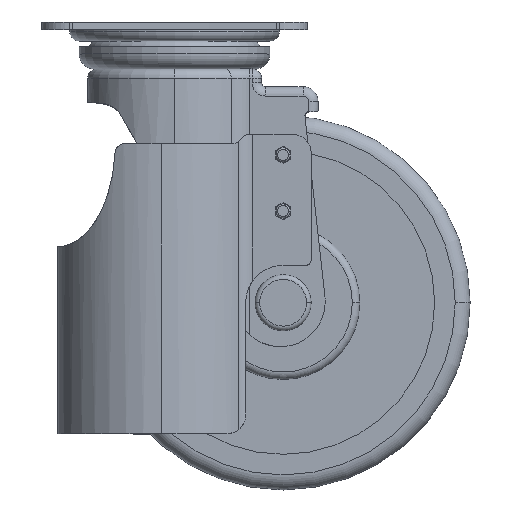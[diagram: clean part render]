
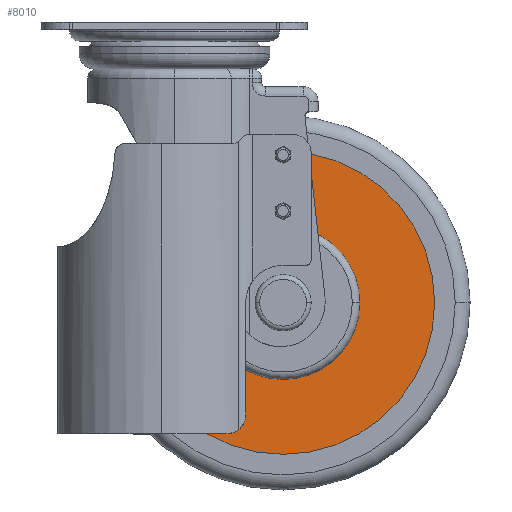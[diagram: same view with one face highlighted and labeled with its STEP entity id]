
A CAD part, top view. The second image highlights one B-rep face of the part: STEP entity #8010.
In plain terms, the highlighted planar face has unit normal (0, 0, 1).
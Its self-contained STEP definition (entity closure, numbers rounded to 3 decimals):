
#297 = EDGE_CURVE ( 'NONE', #6641, #8076, #7648, .T. ) ;
#524 = EDGE_CURVE ( 'NONE', #7879, #5879, #1270, .T. ) ;
#774 = AXIS2_PLACEMENT_3D ( 'NONE', #3671, #3798, #3778 ) ;
#1201 = EDGE_CURVE ( 'NONE', #8076, #6641, #1262, .T. ) ;
#1262 = CIRCLE ( 'NONE', #7640, 41. ) ;
#1270 = CIRCLE ( 'NONE', #2001, 81. ) ;
#1434 = AXIS2_PLACEMENT_3D ( 'NONE', #5856, #8114, #5889 ) ;
#2001 = AXIS2_PLACEMENT_3D ( 'NONE', #5489, #2768, #2755 ) ;
#2278 = CARTESIAN_POINT ( 'NONE',  ( 81., 100., 21.5 ) ) ;
#2341 = CARTESIAN_POINT ( 'NONE',  ( -41., 100., 21.5 ) ) ;
#2546 = DIRECTION ( 'NONE',  ( 1., 0., 0. ) ) ;
#2755 = DIRECTION ( 'NONE',  ( 1., 0., 0. ) ) ;
#2768 = DIRECTION ( 'NONE',  ( 0., 0., 1. ) ) ;
#3365 = FACE_BOUND ( 'NONE', #4177, .T. ) ;
#3389 = ORIENTED_EDGE ( 'NONE', *, *, #297, .F. ) ;
#3671 = CARTESIAN_POINT ( 'NONE',  ( 0., 100., 21.5 ) ) ;
#3778 = DIRECTION ( 'NONE',  ( 1., 0., 0. ) ) ;
#3798 = DIRECTION ( 'NONE',  ( 0., 0., 1. ) ) ;
#4177 = EDGE_LOOP ( 'NONE', ( #3389, #7259 ) ) ;
#5116 = EDGE_CURVE ( 'NONE', #5879, #7879, #6474, .T. ) ;
#5180 = PLANE ( 'NONE',  #1434 ) ;
#5182 = DIRECTION ( 'NONE',  ( 0., 0., 1. ) ) ;
#5183 = DIRECTION ( 'NONE',  ( 1., 0., 0. ) ) ;
#5205 = CARTESIAN_POINT ( 'NONE',  ( 0., 100., 21.5 ) ) ;
#5489 = CARTESIAN_POINT ( 'NONE',  ( 0., 100., 21.5 ) ) ;
#5527 = DIRECTION ( 'NONE',  ( 0., 0., 1. ) ) ;
#5564 = CARTESIAN_POINT ( 'NONE',  ( 0., 100., 21.5 ) ) ;
#5856 = CARTESIAN_POINT ( 'NONE',  ( 0., 100., 21.5 ) ) ;
#5879 = VERTEX_POINT ( 'NONE', #8870 ) ;
#5889 = DIRECTION ( 'NONE',  ( 1., 0., 0. ) ) ;
#6016 = CARTESIAN_POINT ( 'NONE',  ( 41., 100., 21.5 ) ) ;
#6474 = CIRCLE ( 'NONE', #8790, 81. ) ;
#6637 = FACE_OUTER_BOUND ( 'NONE', #7657, .T. ) ;
#6641 = VERTEX_POINT ( 'NONE', #2341 ) ;
#6835 = ORIENTED_EDGE ( 'NONE', *, *, #524, .T. ) ;
#7259 = ORIENTED_EDGE ( 'NONE', *, *, #1201, .F. ) ;
#7640 = AXIS2_PLACEMENT_3D ( 'NONE', #5205, #5182, #2546 ) ;
#7648 = CIRCLE ( 'NONE', #774, 41. ) ;
#7657 = EDGE_LOOP ( 'NONE', ( #6835, #8189 ) ) ;
#7879 = VERTEX_POINT ( 'NONE', #2278 ) ;
#8010 = ADVANCED_FACE ( 'NONE', ( #3365, #6637 ), #5180, .T. ) ;
#8076 = VERTEX_POINT ( 'NONE', #6016 ) ;
#8114 = DIRECTION ( 'NONE',  ( 0., 0., 1. ) ) ;
#8189 = ORIENTED_EDGE ( 'NONE', *, *, #5116, .T. ) ;
#8790 = AXIS2_PLACEMENT_3D ( 'NONE', #5564, #5527, #5183 ) ;
#8870 = CARTESIAN_POINT ( 'NONE',  ( -81., 100., 21.5 ) ) ;
